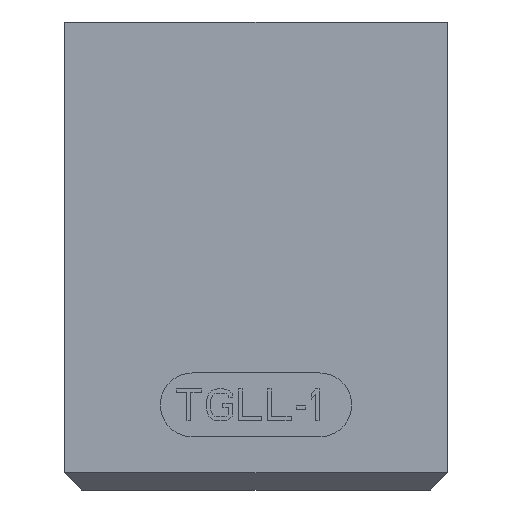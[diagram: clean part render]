
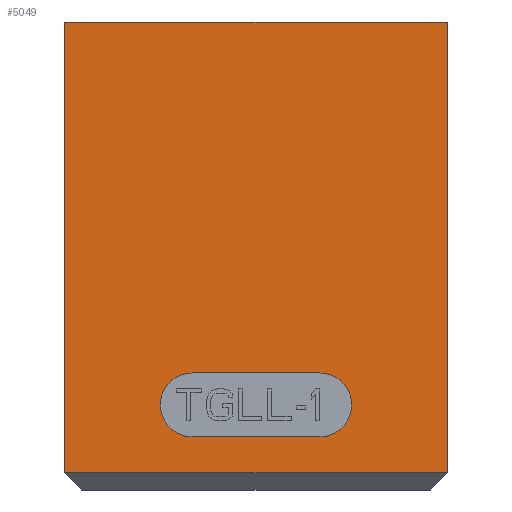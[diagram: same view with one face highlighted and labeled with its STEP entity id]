
A CAD part, front view. The second image highlights one B-rep face of the part: STEP entity #5049.
In plain terms, the highlighted planar face has unit normal (0, -1, 0).
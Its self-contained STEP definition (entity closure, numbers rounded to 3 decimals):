
#607=DIRECTION('',(1.,0.,0.));
#608=VECTOR('',#607,18.);
#609=CARTESIAN_POINT('',(-2.3,-4.,8.5));
#610=LINE('',#609,#608);
#672=DIRECTION('',(0.,0.,1.));
#673=VECTOR('',#672,21.2);
#674=CARTESIAN_POINT('',(15.7,-4.,-12.7));
#675=LINE('',#674,#673);
#803=DIRECTION('',(-1.,0.,0.));
#804=VECTOR('',#803,18.);
#805=CARTESIAN_POINT('',(15.7,-4.,-12.7));
#806=LINE('',#805,#804);
#810=DIRECTION('',(0.,0.,1.));
#811=VECTOR('',#810,21.2);
#812=CARTESIAN_POINT('',(-2.3,-4.,-12.7));
#813=LINE('',#812,#811);
#817=CARTESIAN_POINT('',(3.7,-4.,-9.5));
#818=DIRECTION('',(0.,-1.,0.));
#819=DIRECTION('',(0.,0.,1.));
#820=AXIS2_PLACEMENT_3D('',#817,#818,#819);
#825=DIRECTION('',(1.,0.,0.));
#826=VECTOR('',#825,6.);
#827=CARTESIAN_POINT('',(3.7,-4.,-11.));
#828=LINE('',#827,#826);
#832=CARTESIAN_POINT('',(9.7,-4.,-9.5));
#833=DIRECTION('',(0.,-1.,0.));
#834=DIRECTION('',(0.,0.,-1.));
#835=AXIS2_PLACEMENT_3D('',#832,#833,#834);
#840=DIRECTION('',(-1.,0.,0.));
#841=VECTOR('',#840,6.);
#842=CARTESIAN_POINT('',(9.7,-4.,-8.));
#843=LINE('',#842,#841);
#3110=CARTESIAN_POINT('',(-2.3,-4.,8.5));
#3112=VERTEX_POINT('',#3110);
#3113=CARTESIAN_POINT('',(15.7,-4.,8.5));
#3114=VERTEX_POINT('',#3113);
#3139=CARTESIAN_POINT('',(-2.3,-4.,-12.7));
#3140=VERTEX_POINT('',#3139);
#3145=CARTESIAN_POINT('',(15.7,-4.,-12.7));
#3146=VERTEX_POINT('',#3145);
#3177=CARTESIAN_POINT('',(3.7,-4.,-8.));
#3178=CARTESIAN_POINT('',(3.7,-4.,-11.));
#3179=VERTEX_POINT('',#3177);
#3180=VERTEX_POINT('',#3178);
#3181=CARTESIAN_POINT('',(9.7,-4.,-11.));
#3182=VERTEX_POINT('',#3181);
#3183=CARTESIAN_POINT('',(9.7,-4.,-8.));
#3184=VERTEX_POINT('',#3183);
#5028=CARTESIAN_POINT('',(-2.3,-4.,-13.5));
#5029=DIRECTION('',(0.,-1.,0.));
#5030=DIRECTION('',(1.,0.,0.));
#5031=AXIS2_PLACEMENT_3D('',#5028,#5029,#5030);
#5032=PLANE('',#5031);
#5033=ORIENTED_EDGE('',*,*,#5022,.T.);
#5034=ORIENTED_EDGE('',*,*,#4997,.T.);
#5035=ORIENTED_EDGE('',*,*,#4887,.T.);
#5036=ORIENTED_EDGE('',*,*,#4909,.F.);
#5037=EDGE_LOOP('',(#5033,#5034,#5035,#5036));
#5038=FACE_OUTER_BOUND('',#5037,.F.);
#5040=ORIENTED_EDGE('',*,*,#5039,.T.);
#5042=ORIENTED_EDGE('',*,*,#5041,.T.);
#5044=ORIENTED_EDGE('',*,*,#5043,.T.);
#5046=ORIENTED_EDGE('',*,*,#5045,.T.);
#5047=EDGE_LOOP('',(#5040,#5042,#5044,#5046));
#5048=FACE_BOUND('',#5047,.F.);
#821=CIRCLE('',#820,1.5);
#836=CIRCLE('',#835,1.5);
#4887=EDGE_CURVE('',#3112,#3114,#610,.T.);
#4909=EDGE_CURVE('',#3146,#3114,#675,.T.);
#4997=EDGE_CURVE('',#3140,#3112,#813,.T.);
#5022=EDGE_CURVE('',#3146,#3140,#806,.T.);
#5039=EDGE_CURVE('',#3179,#3180,#821,.T.);
#5041=EDGE_CURVE('',#3180,#3182,#828,.T.);
#5043=EDGE_CURVE('',#3182,#3184,#836,.T.);
#5045=EDGE_CURVE('',#3184,#3179,#843,.T.);
#5049=ADVANCED_FACE('',(#5038,#5048),#5032,.T.);
